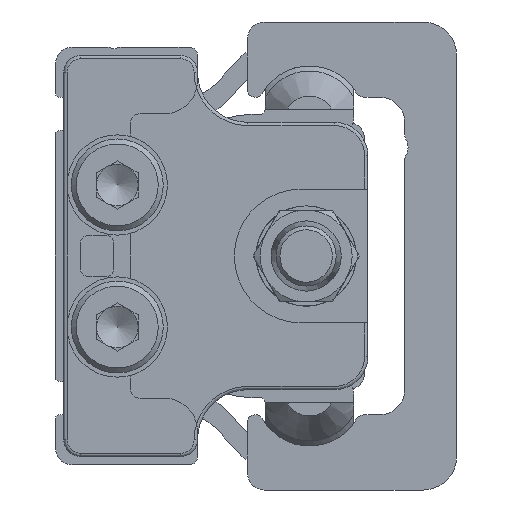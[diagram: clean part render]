
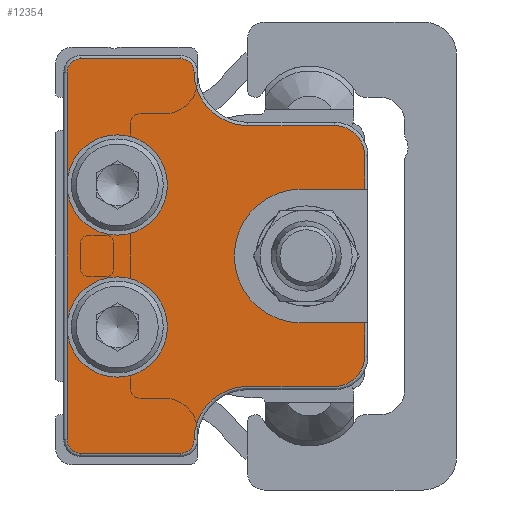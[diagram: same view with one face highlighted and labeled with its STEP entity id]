
A CAD part, left-side view. The second image highlights one B-rep face of the part: STEP entity #12354.
In plain terms, the highlighted planar face has unit normal (-1, 0, 0) as drawn and (0, 0, 1) by its records, which use the part's own axes.
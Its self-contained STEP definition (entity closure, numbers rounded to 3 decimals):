
#791=CIRCLE('',#13674,3.);
#792=CIRCLE('',#13675,0.8);
#793=CIRCLE('',#13676,0.8);
#794=CIRCLE('',#13677,3.2);
#795=CIRCLE('',#13678,1.8);
#796=CIRCLE('',#13679,4.);
#797=CIRCLE('',#13680,1.8);
#798=CIRCLE('',#13681,3.2);
#799=CIRCLE('',#13682,0.8);
#800=CIRCLE('',#13683,0.8);
#801=CIRCLE('',#13684,3.);
#3899=ORIENTED_EDGE('',*,*,#5994,.F.);
#3900=ORIENTED_EDGE('',*,*,#5995,.T.);
#3901=ORIENTED_EDGE('',*,*,#5996,.T.);
#3902=ORIENTED_EDGE('',*,*,#5997,.T.);
#3903=ORIENTED_EDGE('',*,*,#5998,.T.);
#3904=ORIENTED_EDGE('',*,*,#5999,.T.);
#3905=ORIENTED_EDGE('',*,*,#6000,.T.);
#3906=ORIENTED_EDGE('',*,*,#6001,.T.);
#3907=ORIENTED_EDGE('',*,*,#6002,.T.);
#3908=ORIENTED_EDGE('',*,*,#6003,.F.);
#3909=ORIENTED_EDGE('',*,*,#6004,.F.);
#3910=ORIENTED_EDGE('',*,*,#6005,.F.);
#3911=ORIENTED_EDGE('',*,*,#6006,.T.);
#3912=ORIENTED_EDGE('',*,*,#6007,.T.);
#3913=ORIENTED_EDGE('',*,*,#6008,.T.);
#3914=ORIENTED_EDGE('',*,*,#6009,.T.);
#3915=ORIENTED_EDGE('',*,*,#6010,.T.);
#3916=ORIENTED_EDGE('',*,*,#6011,.T.);
#3917=ORIENTED_EDGE('',*,*,#6012,.T.);
#3918=ORIENTED_EDGE('',*,*,#6013,.T.);
#3919=ORIENTED_EDGE('',*,*,#6014,.F.);
#3920=ORIENTED_EDGE('',*,*,#6015,.T.);
#5994=EDGE_CURVE('',#7315,#7315,#791,.T.);
#5995=EDGE_CURVE('',#7315,#7316,#8302,.T.);
#5996=EDGE_CURVE('',#7316,#7317,#792,.T.);
#5997=EDGE_CURVE('',#7317,#7318,#8303,.T.);
#5998=EDGE_CURVE('',#7318,#7319,#793,.T.);
#5999=EDGE_CURVE('',#7319,#7320,#794,.F.);
#6000=EDGE_CURVE('',#7320,#7321,#8304,.T.);
#6001=EDGE_CURVE('',#7321,#7322,#795,.T.);
#6002=EDGE_CURVE('',#7322,#7323,#8305,.T.);
#6003=EDGE_CURVE('',#7324,#7323,#8306,.T.);
#6004=EDGE_CURVE('',#7325,#7324,#796,.T.);
#6005=EDGE_CURVE('',#7326,#7325,#8307,.T.);
#6006=EDGE_CURVE('',#7326,#7327,#8308,.T.);
#6007=EDGE_CURVE('',#7327,#7328,#797,.T.);
#6008=EDGE_CURVE('',#7328,#7329,#8309,.T.);
#6009=EDGE_CURVE('',#7329,#7330,#798,.F.);
#6010=EDGE_CURVE('',#7330,#7331,#799,.T.);
#6011=EDGE_CURVE('',#7331,#7332,#8310,.T.);
#6012=EDGE_CURVE('',#7332,#7333,#800,.T.);
#6013=EDGE_CURVE('',#7333,#7334,#8311,.T.);
#6014=EDGE_CURVE('',#7334,#7334,#801,.T.);
#6015=EDGE_CURVE('',#7334,#7315,#8312,.T.);
#7315=VERTEX_POINT('',#21018);
#7316=VERTEX_POINT('',#21020);
#7317=VERTEX_POINT('',#21022);
#7318=VERTEX_POINT('',#21024);
#7319=VERTEX_POINT('',#21026);
#7320=VERTEX_POINT('',#21028);
#7321=VERTEX_POINT('',#21030);
#7322=VERTEX_POINT('',#21032);
#7323=VERTEX_POINT('',#21034);
#7324=VERTEX_POINT('',#21036);
#7325=VERTEX_POINT('',#21038);
#7326=VERTEX_POINT('',#21040);
#7327=VERTEX_POINT('',#21042);
#7328=VERTEX_POINT('',#21044);
#7329=VERTEX_POINT('',#21046);
#7330=VERTEX_POINT('',#21048);
#7331=VERTEX_POINT('',#21050);
#7332=VERTEX_POINT('',#21052);
#7333=VERTEX_POINT('',#21054);
#7334=VERTEX_POINT('',#21056);
#8302=LINE('',#21019,#9240);
#8303=LINE('',#21023,#9241);
#8304=LINE('',#21029,#9242);
#8305=LINE('',#21033,#9243);
#8306=LINE('',#21035,#9244);
#8307=LINE('',#21039,#9245);
#8308=LINE('',#21041,#9246);
#8309=LINE('',#21045,#9247);
#8310=LINE('',#21051,#9248);
#8311=LINE('',#21055,#9249);
#8312=LINE('',#21058,#9250);
#9240=VECTOR('',#16971,1000.);
#9241=VECTOR('',#16974,1000.);
#9242=VECTOR('',#16979,1000.);
#9243=VECTOR('',#16982,1000.);
#9244=VECTOR('',#16983,1000.);
#9245=VECTOR('',#16986,1000.);
#9246=VECTOR('',#16987,1000.);
#9247=VECTOR('',#16990,1000.);
#9248=VECTOR('',#16995,1000.);
#9249=VECTOR('',#16998,1000.);
#9250=VECTOR('',#17001,1000.);
#10177=EDGE_LOOP('',(#3899,#3900,#3901,#3902,#3903,#3904,#3905,#3906,#3907,
#3908,#3909,#3910,#3911,#3912,#3913,#3914,#3915,#3916,#3917,#3918,#3919,
#3920));
#11166=FACE_BOUND('',#10177,.T.);
#11686=PLANE('',#13673);
#12354=ADVANCED_FACE('',(#11166),#11686,.T.);
#13673=AXIS2_PLACEMENT_3D('',#21016,#16967,#16968);
#13674=AXIS2_PLACEMENT_3D('',#21017,#16969,#16970);
#13675=AXIS2_PLACEMENT_3D('',#21021,#16972,#16973);
#13676=AXIS2_PLACEMENT_3D('',#21025,#16975,#16976);
#13677=AXIS2_PLACEMENT_3D('',#21027,#16977,#16978);
#13678=AXIS2_PLACEMENT_3D('',#21031,#16980,#16981);
#13679=AXIS2_PLACEMENT_3D('',#21037,#16984,#16985);
#13680=AXIS2_PLACEMENT_3D('',#21043,#16988,#16989);
#13681=AXIS2_PLACEMENT_3D('',#21047,#16991,#16992);
#13682=AXIS2_PLACEMENT_3D('',#21049,#16993,#16994);
#13683=AXIS2_PLACEMENT_3D('',#21053,#16996,#16997);
#13684=AXIS2_PLACEMENT_3D('',#21057,#16999,#17000);
#16967=DIRECTION('',(0.,0.,1.));
#16968=DIRECTION('',(1.,0.,0.));
#16969=DIRECTION('',(0.,0.,1.));
#16970=DIRECTION('',(1.,0.,0.));
#16971=DIRECTION('',(-1.,0.,0.));
#16972=DIRECTION('',(0.,0.,1.));
#16973=DIRECTION('',(1.,0.,0.));
#16974=DIRECTION('',(0.,-1.,0.));
#16975=DIRECTION('',(0.,0.,1.));
#16976=DIRECTION('',(1.,0.,0.));
#16977=DIRECTION('',(0.,0.,1.));
#16978=DIRECTION('',(1.,0.,0.));
#16979=DIRECTION('',(0.,-1.,0.));
#16980=DIRECTION('',(0.,0.,1.));
#16981=DIRECTION('',(1.,0.,0.));
#16982=DIRECTION('',(1.,0.,0.));
#16983=DIRECTION('',(0.,-1.,0.));
#16984=DIRECTION('',(0.,0.,1.));
#16985=DIRECTION('',(1.,0.,0.));
#16986=DIRECTION('',(0.,1.,0.));
#16987=DIRECTION('',(1.,0.,0.));
#16988=DIRECTION('',(0.,0.,1.));
#16989=DIRECTION('',(1.,0.,0.));
#16990=DIRECTION('',(0.,1.,0.));
#16991=DIRECTION('',(0.,0.,1.));
#16992=DIRECTION('',(1.,0.,0.));
#16993=DIRECTION('',(0.,0.,1.));
#16994=DIRECTION('',(1.,0.,0.));
#16995=DIRECTION('',(0.,1.,0.));
#16996=DIRECTION('',(0.,0.,1.));
#16997=DIRECTION('',(1.,0.,0.));
#16998=DIRECTION('',(-1.,0.,0.));
#16999=DIRECTION('',(0.,0.,1.));
#17000=DIRECTION('',(1.,0.,0.));
#17001=DIRECTION('',(-1.,0.,0.));
#21016=CARTESIAN_POINT('',(-11.,-7.,4.5));
#21017=CARTESIAN_POINT('',(-4.25,-3.2,4.5));
#21018=CARTESIAN_POINT('',(-4.25,-0.2,4.5));
#21019=CARTESIAN_POINT('',(-11.,-0.2,4.5));
#21020=CARTESIAN_POINT('',(-11.,-0.2,4.5));
#21021=CARTESIAN_POINT('',(-11.,-1.,4.5));
#21022=CARTESIAN_POINT('',(-11.8,-1.,4.5));
#21023=CARTESIAN_POINT('',(-11.8,-7.,4.5));
#21024=CARTESIAN_POINT('',(-11.8,-7.,4.5));
#21025=CARTESIAN_POINT('',(-11.,-7.,4.5));
#21026=CARTESIAN_POINT('',(-11.,-7.8,4.5));
#21027=CARTESIAN_POINT('',(-11.,-11.,4.5));
#21028=CARTESIAN_POINT('',(-7.8,-11.,4.5));
#21029=CARTESIAN_POINT('',(-7.8,-16.2,4.5));
#21030=CARTESIAN_POINT('',(-7.8,-16.2,4.5));
#21031=CARTESIAN_POINT('',(-6.,-16.2,4.5));
#21032=CARTESIAN_POINT('',(-6.,-18.,4.5));
#21033=CARTESIAN_POINT('',(-4.,-18.,4.5));
#21034=CARTESIAN_POINT('',(-4.,-18.,4.5));
#21035=CARTESIAN_POINT('',(-4.,-14.2,4.5));
#21036=CARTESIAN_POINT('',(-4.,-14.2,4.5));
#21037=CARTESIAN_POINT('',(0.,-14.2,4.5));
#21038=CARTESIAN_POINT('',(4.,-14.2,4.5));
#21039=CARTESIAN_POINT('',(4.,-19.2,4.5));
#21040=CARTESIAN_POINT('',(4.,-18.,4.5));
#21041=CARTESIAN_POINT('',(6.,-18.,4.5));
#21042=CARTESIAN_POINT('',(6.,-18.,4.5));
#21043=CARTESIAN_POINT('',(6.,-16.2,4.5));
#21044=CARTESIAN_POINT('',(7.8,-16.2,4.5));
#21045=CARTESIAN_POINT('',(7.8,-11.,4.5));
#21046=CARTESIAN_POINT('',(7.8,-11.,4.5));
#21047=CARTESIAN_POINT('',(11.,-11.,4.5));
#21048=CARTESIAN_POINT('',(11.,-7.8,4.5));
#21049=CARTESIAN_POINT('',(11.,-7.,4.5));
#21050=CARTESIAN_POINT('',(11.8,-7.,4.5));
#21051=CARTESIAN_POINT('',(11.8,-1.,4.5));
#21052=CARTESIAN_POINT('',(11.8,-1.,4.5));
#21053=CARTESIAN_POINT('',(11.,-1.,4.5));
#21054=CARTESIAN_POINT('',(11.,-0.2,4.5));
#21055=CARTESIAN_POINT('',(-11.,-0.2,4.5));
#21056=CARTESIAN_POINT('',(4.25,-0.2,4.5));
#21057=CARTESIAN_POINT('',(4.25,-3.2,4.5));
#21058=CARTESIAN_POINT('',(-11.,-0.2,4.5));
